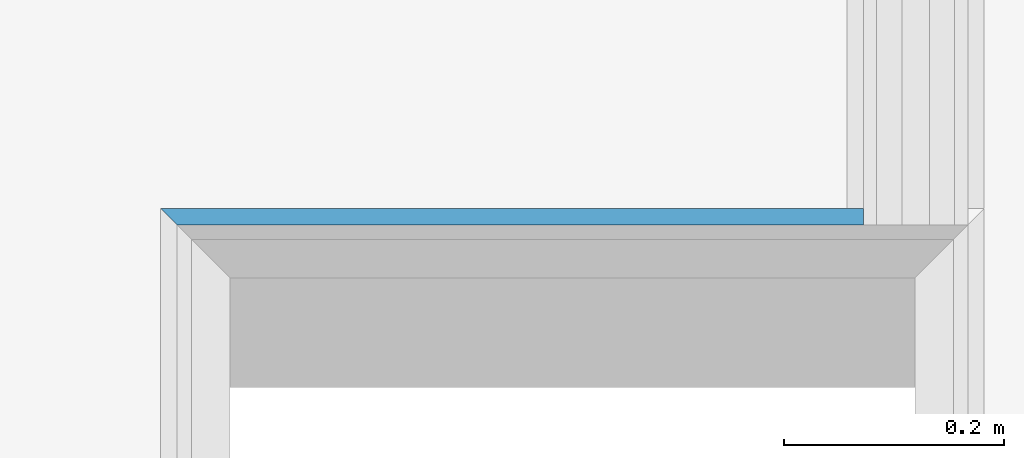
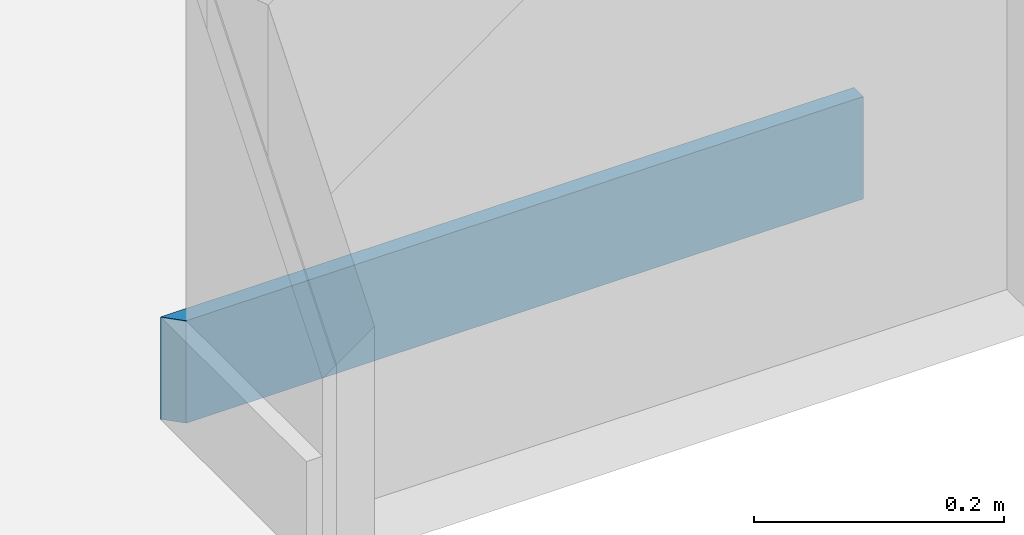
# One storey, part 7 of 65: 1 wall.
"""IFC2X3 building model written with IfcOpenShell, lengths in metres."""

import ifcopenshell
import ifcopenshell.guid

model = None  # the IFC model being written
_history = None  # IfcOwnerHistory: only IFC2X3 demands one
_inside = {}  # id of a spatial element -> (the spatial element, [elements in it])
_under = {}  # id of a project, library or spatial element -> (it, [spatial elements below it])
_declared = {}  # id of a project -> (the project, [libraries it declares])
_typed = {}  # id of a type object -> (the type object, [elements of that type])
_made_of = {}  # id of a material, layer set ... -> (it, [elements and type objects made of it])


def new_model(schema):
    """Start an empty IFC model of exactly this schema.

    Asked for "IFC4X3", IfcOpenShell would pick the latest addendum, in which some entities
    have other attributes; the version numbers below select the first issue.
    IFC2X3 requires an IfcOwnerHistory on every rooted entity: one is made here for all.
    """
    global model, _history
    if schema == "IFC4X3":
        model = ifcopenshell.file(schema_version=(4, 3, 0, 0))
    else:
        model = ifcopenshell.file(schema=schema)
    _inside.clear()
    _under.clear()
    _declared.clear()
    _typed.clear()
    _made_of.clear()
    _history = None
    if model.schema == "IFC2X3":
        org = make("IfcOrganization", Name="unknown")
        user = make(
            "IfcPersonAndOrganization",
            ThePerson=make("IfcPerson", FamilyName="unknown"),
            TheOrganization=org,
        )
        app = make(
            "IfcApplication",
            ApplicationDeveloper=org,
            Version="unknown",
            ApplicationFullName="unknown",
            ApplicationIdentifier="unknown",
        )
        _history = make(
            "IfcOwnerHistory",
            OwningUser=user,
            OwningApplication=app,
            ChangeAction="ADDED",
            CreationDate=0,
        )
    return model


def make(cls, **values):
    """One entity of the class cls with the attributes given. An attribute that is None is left unset."""
    return model.create_entity(
        cls, **{name: value for name, value in values.items() if value is not None}
    )


def entity(cls, *values):
    """Any entity or typed value of the class cls, its attributes in the order of the schema. None: left unset."""
    e = model.create_entity(cls)
    for i, value in enumerate(values):
        if value is not None:
            e[i] = value
    return e


def rooted(cls, **values):
    """An entity with a GlobalId (a new one), such as an element, a storey or a relation."""
    return make(cls, GlobalId=ifcopenshell.guid.new(), OwnerHistory=_history, **values)


def si_unit(unit_type, name, prefix=None):
    """IfcSIUnit, for example si_unit("LENGTHUNIT", "METRE", prefix="MILLI")."""
    return make("IfcSIUnit", UnitType=unit_type, Prefix=prefix, Name=name)


def converted_unit(unit_type, name, factor, base, dimensions=None, offset=None):
    """IfcConversionBasedUnit, such as the inch: factor (a typed value) times the base unit."""
    return make(
        "IfcConversionBasedUnit"
        if offset is None
        else "IfcConversionBasedUnitWithOffset",
        ConversionOffset=offset,
        Dimensions=None
        if dimensions is None
        else entity("IfcDimensionalExponents", *dimensions),
        UnitType=unit_type,
        Name=name,
        ConversionFactor=make(
            "IfcMeasureWithUnit", ValueComponent=factor, UnitComponent=base
        ),
    )


def derived_unit(unit_type, elements):
    """IfcDerivedUnit: a product of units, each with its exponent."""
    return make(
        "IfcDerivedUnit",
        Elements=[
            make("IfcDerivedUnitElement", Unit=unit, Exponent=power)
            for unit, power in elements
        ],
        UnitType=unit_type,
    )


def money_unit(currency):
    """IfcMonetaryUnit."""
    return make("IfcMonetaryUnit", Currency=currency)


def assignment(units):
    """IfcUnitAssignment: the units of a project."""
    return None if units is None else make("IfcUnitAssignment", Units=units)


def point(xyz):
    """IfcCartesianPoint."""
    return None if xyz is None else make("IfcCartesianPoint", Coordinates=xyz)


def direction(xyz):
    """IfcDirection."""
    return None if xyz is None else make("IfcDirection", DirectionRatios=xyz)


def frame(location, z_axis=None, x_axis=None):
    """IfcAxis2Placement3D, a coordinate frame: its origin and axes. An axis left out is left unset."""
    return make(
        "IfcAxis2Placement3D",
        Location=point(location),
        Axis=direction(z_axis),
        RefDirection=direction(x_axis),
    )


def origin_with_axes():
    """The frame at (0, 0, 0) with the z axis (0, 0, 1) and the x axis (1, 0, 0) written out."""
    return frame((0.0, 0.0, 0.0), z_axis=(0.0, 0.0, 1.0), x_axis=(1.0, 0.0, 0.0))


def place(relative_to, where):
    """IfcLocalPlacement: puts the frame where relative to a parent placement (None: the world)."""
    return make(
        "IfcLocalPlacement", PlacementRelTo=relative_to, RelativePlacement=where
    )


def context(
    kind, dimensions, precision=None, world=None, true_north=None, identifier=None
):
    """IfcGeometricRepresentationContext, for example the 3D "Model" context."""
    return make(
        "IfcGeometricRepresentationContext",
        ContextIdentifier=identifier,
        ContextType=kind,
        CoordinateSpaceDimension=dimensions,
        Precision=precision,
        WorldCoordinateSystem=world,
        TrueNorth=true_north,
    )


def subcontext(parent, identifier, kind, view, scale=None):
    """IfcGeometricRepresentationSubContext, for example "Body" below "Model"."""
    return make(
        "IfcGeometricRepresentationSubContext",
        ContextIdentifier=identifier,
        ContextType=kind,
        ParentContext=parent,
        TargetScale=scale,
        TargetView=view,
    )


def project(units=None, contexts=None):
    """IfcProject with its units and contexts."""
    return rooted(
        "IfcProject",
        Name="project",
        RepresentationContexts=contexts,
        UnitsInContext=assignment(units),
    )


def spatial(cls, under=None, at=None, **own):
    """A site, building, storey or space (cls), placed at a placement, below another one or the project."""
    s = rooted(cls, ObjectPlacement=at, **own)
    if under is not None:
        _under.setdefault(under.id(), (under, []))[1].append(s)
    return s


def polyline(points):
    """IfcPolyline through the points."""
    return make("IfcPolyline", Points=[point(p) for p in points])


def outline(outer, holes=None, kind="AREA"):
    """IfcArbitraryClosedProfileDef: a profile drawn as a closed curve; with holes, ...WithVoids."""
    if holes is None:
        return make("IfcArbitraryClosedProfileDef", ProfileType=kind, OuterCurve=outer)
    return make(
        "IfcArbitraryProfileDefWithVoids",
        ProfileType=kind,
        OuterCurve=outer,
        InnerCurves=holes,
    )


def extrude(swept, where, along, depth):
    """IfcExtrudedAreaSolid: the profile swept, set in the frame where, extruded along a direction by depth."""
    return make(
        "IfcExtrudedAreaSolid",
        SweptArea=swept,
        Position=where,
        ExtrudedDirection=direction(along),
        Depth=depth,
    )


def shape(context_of_items, identifier, shape_type, items):
    """IfcShapeRepresentation: the items that make up one representation, for example the "Body"."""
    return make(
        "IfcShapeRepresentation",
        ContextOfItems=context_of_items,
        RepresentationIdentifier=identifier,
        RepresentationType=shape_type,
        Items=items,
    )


def material(Name=None, Category=None):
    """IfcMaterial."""
    return make("IfcMaterial", Name=Name, Category=Category)


def layer(
    of_material, thickness, ventilated=None, Name=None, Category=None, Priority=None
):
    """IfcMaterialLayer: one layer of a wall or slab, of a material (None: an air gap)."""
    return make(
        "IfcMaterialLayer",
        Material=of_material,
        LayerThickness=thickness,
        IsVentilated=ventilated,
        Name=Name,
        Category=Category,
        Priority=Priority,
    )


def layer_set(layers, Name=None):
    """IfcMaterialLayerSet."""
    return make("IfcMaterialLayerSet", MaterialLayers=layers, LayerSetName=Name)


def layer_usage(for_layer_set, set_direction, sense, offset, extent=None):
    """IfcMaterialLayerSetUsage: how a layer set lies in its element."""
    return make(
        "IfcMaterialLayerSetUsage",
        ForLayerSet=for_layer_set,
        LayerSetDirection=set_direction,
        DirectionSense=sense,
        OffsetFromReferenceLine=offset,
        ReferenceExtent=extent,
    )


def made_of(thing, what):
    """Note that an element or type object is made of a material, layer set ...; save() writes the relation."""
    if what is not None:
        _made_of.setdefault(what.id(), (what, []))[1].append(thing)
    return thing


def type_object(cls, material=None, **own):
    """A type object (cls), such as IfcWallType, which elements share."""
    return made_of(rooted(cls, **own), material)


def element(
    cls,
    number,
    at=None,
    inside=None,
    cuts=None,
    type_object=None,
    material=None,
    context=None,
    identifier="Body",
    shape_type=None,
    held_by="IfcProductDefinitionShape",
    body=None,
    shapes=None,
    **own,
):
    """One element of the class cls, such as IfcWall. Its Tag is "e" and its number.

    at: its placement. inside: the storey or other place that contains it. cuts: it is an
    opening in that element (IfcRelVoidsElement). A single representation is given by context,
    identifier, shape_type and body (its items); several are given by shapes. held_by: the class
    of the entity that holds the representations. save() writes the other relations.
    """
    e = rooted(cls, Tag="e%d" % number, ObjectPlacement=at, **own)
    if body is not None:
        shapes = [shape(context, identifier, shape_type, body)]
    if shapes is not None:
        e.Representation = make(held_by, Representations=shapes)
    if inside is not None:
        _inside.setdefault(inside.id(), (inside, []))[1].append(e)
    if cuts is not None:
        rooted(
            "IfcRelVoidsElement", RelatingBuildingElement=cuts, RelatedOpeningElement=e
        )
    if type_object is not None:
        _typed.setdefault(type_object.id(), (type_object, []))[1].append(e)
    return made_of(e, material)


def aggregate(whole, parts):
    """IfcRelAggregates: a whole, such as a stair, and the parts it consists of."""
    return rooted("IfcRelAggregates", RelatingObject=whole, RelatedObjects=parts)


def save(model, path):
    """Write the relations noted so far, then the file.

    IfcRelAggregates (storeys below a building ...), IfcRelContainedInSpatialStructure (elements
    in a storey), IfcRelDefinesByType, IfcRelAssociatesMaterial and IfcRelDeclares: one each for
    every whole, place, type object, material and project.
    """
    for whole, parts in _under.values():
        aggregate(whole, parts)
    for where, things in _inside.values():
        rooted(
            "IfcRelContainedInSpatialStructure",
            RelatedElements=things,
            RelatingStructure=where,
        )
    for kind, things in _typed.values():
        rooted("IfcRelDefinesByType", RelatedObjects=things, RelatingType=kind)
    for what, things in _made_of.values():
        rooted("IfcRelAssociatesMaterial", RelatedObjects=things, RelatingMaterial=what)
    for by, libraries in _declared.values():
        rooted("IfcRelDeclares", RelatingContext=by, RelatedDefinitions=libraries)
    model.write(path)


model = new_model("IFC2X3")

# Units and contexts
model_context = context("Model", 3, precision=1e-05, world=origin_with_axes(), true_north=direction((0.0, 1.0)))
body_context = subcontext(model_context, "Body", "Model", "MODEL_VIEW", scale=1.0)
ifc_project = project(units=[si_unit("LENGTHUNIT", "METRE"), si_unit("AREAUNIT", "SQUARE_METRE"), si_unit("VOLUMEUNIT", "CUBIC_METRE"), si_unit("ABSORBEDDOSEUNIT", "GRAY"), si_unit("AMOUNTOFSUBSTANCEUNIT", "MOLE"), si_unit("DOSEEQUIVALENTUNIT", "SIEVERT"), si_unit("ELECTRICCAPACITANCEUNIT", "FARAD"), si_unit("ELECTRICCHARGEUNIT", "COULOMB"), si_unit("ELECTRICCONDUCTANCEUNIT", "SIEMENS"), si_unit("ELECTRICCURRENTUNIT", "AMPERE"), si_unit("ELECTRICRESISTANCEUNIT", "OHM"), si_unit("ELECTRICVOLTAGEUNIT", "VOLT"), si_unit("ENERGYUNIT", "JOULE"), si_unit("FORCEUNIT", "NEWTON"), si_unit("FREQUENCYUNIT", "HERTZ"), si_unit("ILLUMINANCEUNIT", "LUX"), si_unit("INDUCTANCEUNIT", "HENRY"), si_unit("LUMINOUSFLUXUNIT", "LUMEN"), si_unit("LUMINOUSINTENSITYUNIT", "CANDELA"), si_unit("MAGNETICFLUXDENSITYUNIT", "TESLA"), si_unit("MAGNETICFLUXUNIT", "WEBER"), si_unit("MASSUNIT", "GRAM"), converted_unit("PLANEANGLEUNIT", "degree", entity("IfcReal", 0.0174532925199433), si_unit("PLANEANGLEUNIT", "RADIAN"), dimensions=[0, 0, 0, 0, 0, 0, 0]), si_unit("POWERUNIT", "WATT"), si_unit("PRESSUREUNIT", "PASCAL"), si_unit("RADIOACTIVITYUNIT", "BECQUEREL"), si_unit("SOLIDANGLEUNIT", "STERADIAN"), si_unit("THERMODYNAMICTEMPERATUREUNIT", "KELVIN"), si_unit("TIMEUNIT", "SECOND"), derived_unit("ACCELERATIONUNIT", [(si_unit("LENGTHUNIT", "METRE"), 1), (si_unit("TIMEUNIT", "SECOND"), -2)]), derived_unit("ANGULARVELOCITYUNIT", [(converted_unit("PLANEANGLEUNIT", "degree", entity("IfcReal", 0.0174532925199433), si_unit("PLANEANGLEUNIT", "RADIAN"), dimensions=[0, 0, 0, 0, 0, 0, 0]), 1), (si_unit("TIMEUNIT", "SECOND"), -1)]), derived_unit("CURVATUREUNIT", [(converted_unit("PLANEANGLEUNIT", "degree", entity("IfcReal", 0.0174532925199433), si_unit("PLANEANGLEUNIT", "RADIAN"), dimensions=[0, 0, 0, 0, 0, 0, 0]), 1), (si_unit("LENGTHUNIT", "METRE"), -1)]), derived_unit("DYNAMICVISCOSITYUNIT", [(si_unit("PRESSUREUNIT", "PASCAL"), 1), (si_unit("TIMEUNIT", "SECOND"), 1)]), derived_unit("HEATFLUXDENSITYUNIT", [(si_unit("POWERUNIT", "WATT"), 1), (si_unit("LENGTHUNIT", "METRE"), -2)]), derived_unit("HEATINGVALUEUNIT", [(si_unit("ENERGYUNIT", "JOULE"), 1), (si_unit("MASSUNIT", "GRAM"), -1)]), derived_unit("INTEGERCOUNTRATEUNIT", [(si_unit("TIMEUNIT", "SECOND"), -1)]), derived_unit("IONCONCENTRATIONUNIT", [(si_unit("MASSUNIT", "GRAM"), 1), (si_unit("VOLUMEUNIT", "CUBIC_METRE"), -1)]), derived_unit("ISOTHERMALMOISTURECAPACITYUNIT", [(si_unit("VOLUMEUNIT", "CUBIC_METRE"), 1), (si_unit("MASSUNIT", "GRAM"), -1)]), derived_unit("KINEMATICVISCOSITYUNIT", [(si_unit("AREAUNIT", "SQUARE_METRE"), 1), (si_unit("TIMEUNIT", "SECOND"), -1)]), derived_unit("LINEARFORCEUNIT", [(si_unit("FORCEUNIT", "NEWTON"), 1), (si_unit("LENGTHUNIT", "METRE"), -1)]), derived_unit("LINEARMOMENTUNIT", [(si_unit("FORCEUNIT", "NEWTON"), 1), (si_unit("LENGTHUNIT", "METRE"), -1)]), derived_unit("LINEARSTIFFNESSUNIT", [(si_unit("FORCEUNIT", "NEWTON"), 1), (si_unit("LENGTHUNIT", "METRE"), -1)]), derived_unit("LINEARVELOCITYUNIT", [(si_unit("LENGTHUNIT", "METRE"), 1), (si_unit("TIMEUNIT", "SECOND"), -1)]), derived_unit("LUMINOUSINTENSITYDISTRIBUTIONUNIT", [(si_unit("LUMINOUSINTENSITYUNIT", "CANDELA"), 1), (si_unit("LUMINOUSFLUXUNIT", "LUMEN"), -1)]), derived_unit("MASSDENSITYUNIT", [(si_unit("MASSUNIT", "GRAM"), 1), (si_unit("VOLUMEUNIT", "CUBIC_METRE"), -1)]), derived_unit("MASSFLOWRATEUNIT", [(si_unit("MASSUNIT", "GRAM"), 1), (si_unit("TIMEUNIT", "SECOND"), -1)]), derived_unit("MASSPERLENGTHUNIT", [(si_unit("MASSUNIT", "GRAM"), 1), (si_unit("LENGTHUNIT", "METRE"), -1)]), derived_unit("MODULUSOFELASTICITYUNIT", [(si_unit("FORCEUNIT", "NEWTON"), 1), (si_unit("AREAUNIT", "SQUARE_METRE"), -1)]), derived_unit("MODULUSOFLINEARSUBGRADEREACTIONUNIT", [(si_unit("FORCEUNIT", "NEWTON"), 1), (si_unit("LENGTHUNIT", "METRE"), -2)]), derived_unit("MODULUSOFROTATIONALSUBGRADEREACTIONUNIT", [(si_unit("FORCEUNIT", "NEWTON"), 1), (si_unit("LENGTHUNIT", "METRE"), 1)]), derived_unit("MODULUSOFSUBGRADEREACTIONUNIT", [(si_unit("FORCEUNIT", "NEWTON"), 1), (si_unit("VOLUMEUNIT", "CUBIC_METRE"), -1)]), derived_unit("MOISTUREDIFFUSIVITYUNIT", [(si_unit("VOLUMEUNIT", "CUBIC_METRE"), 1), (si_unit("TIMEUNIT", "SECOND"), -1)]), derived_unit("MOLECULARWEIGHTUNIT", [(si_unit("MASSUNIT", "GRAM"), 1), (si_unit("AMOUNTOFSUBSTANCEUNIT", "MOLE"), -1)]), derived_unit("PLANARFORCEUNIT", [(si_unit("FORCEUNIT", "NEWTON"), 1), (si_unit("LENGTHUNIT", "METRE"), -2)]), derived_unit("ROTATIONALFREQUENCYUNIT", [(si_unit("TIMEUNIT", "SECOND"), -1)]), derived_unit("ROTATIONALMASSUNIT", [(si_unit("MASSUNIT", "GRAM"), 1), (si_unit("LENGTHUNIT", "METRE"), 2)]), derived_unit("ROTATIONALSTIFFNESSUNIT", [(si_unit("FORCEUNIT", "NEWTON"), 1), (si_unit("LENGTHUNIT", "METRE"), 1), (converted_unit("PLANEANGLEUNIT", "degree", entity("IfcReal", 0.0174532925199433), si_unit("PLANEANGLEUNIT", "RADIAN"), dimensions=[0, 0, 0, 0, 0, 0, 0]), -1)]), derived_unit("SECTIONAREAINTEGRALUNIT", [(si_unit("LENGTHUNIT", "METRE"), 5)]), derived_unit("SECTIONMODULUSUNIT", [(si_unit("LENGTHUNIT", "METRE"), 3)]), derived_unit("SHEARMODULUSUNIT", [(si_unit("FORCEUNIT", "NEWTON"), 1), (si_unit("AREAUNIT", "SQUARE_METRE"), -1)]), derived_unit("SOUNDPOWERUNIT", [(si_unit("ENERGYUNIT", "JOULE"), 1), (si_unit("TIMEUNIT", "SECOND"), -1)]), derived_unit("SPECIFICHEATCAPACITYUNIT", [(si_unit("FORCEUNIT", "NEWTON"), 1), (si_unit("MASSUNIT", "GRAM"), -1), (si_unit("THERMODYNAMICTEMPERATUREUNIT", "KELVIN"), -1)]), derived_unit("TEMPERATUREGRADIENTUNIT", [(si_unit("THERMODYNAMICTEMPERATUREUNIT", "KELVIN"), 1), (si_unit("LENGTHUNIT", "METRE"), -1)]), derived_unit("THERMALADMITTANCEUNIT", [(si_unit("POWERUNIT", "WATT"), 1), (si_unit("AREAUNIT", "SQUARE_METRE"), -1), (si_unit("THERMODYNAMICTEMPERATUREUNIT", "KELVIN"), -1)]), derived_unit("THERMALCONDUCTANCEUNIT", [(si_unit("POWERUNIT", "WATT"), 1), (si_unit("LENGTHUNIT", "METRE"), -1), (si_unit("THERMODYNAMICTEMPERATUREUNIT", "KELVIN"), -1)]), derived_unit("THERMALEXPANSIONCOEFFICIENTUNIT", [(si_unit("THERMODYNAMICTEMPERATUREUNIT", "KELVIN"), -1)]), derived_unit("THERMALRESISTANCEUNIT", [(si_unit("AREAUNIT", "SQUARE_METRE"), 1), (si_unit("POWERUNIT", "WATT"), -1)]), derived_unit("THERMALTRANSMITTANCEUNIT", [(si_unit("POWERUNIT", "WATT"), 1), (si_unit("AREAUNIT", "SQUARE_METRE"), -1), (si_unit("THERMODYNAMICTEMPERATUREUNIT", "KELVIN"), -1)]), derived_unit("TORQUEUNIT", [(si_unit("FORCEUNIT", "NEWTON"), 1), (si_unit("LENGTHUNIT", "METRE"), 1)]), derived_unit("VAPORPERMEABILITYUNIT", [(si_unit("MASSUNIT", "GRAM"), 1), (si_unit("TIMEUNIT", "SECOND"), -1)]), derived_unit("VOLUMETRICFLOWRATEUNIT", [(si_unit("VOLUMEUNIT", "CUBIC_METRE"), 1), (si_unit("TIMEUNIT", "SECOND"), -1)]), derived_unit("WARPINGCONSTANTUNIT", [(si_unit("LENGTHUNIT", "METRE"), 6)]), derived_unit("WARPINGMOMENTUNIT", [(si_unit("FORCEUNIT", "NEWTON"), 1), (si_unit("LENGTHUNIT", "METRE"), 2)]), money_unit("GBP")], contexts=[model_context])

# Site, building, storey
site_placement = place(None, origin_with_axes())
site = spatial("IfcSite", under=ifc_project, at=site_placement, Name="Site", CompositionType="ELEMENT")
building_placement = place(site_placement, origin_with_axes())
building = spatial("IfcBuilding", under=site, at=building_placement, Name="Building01", CompositionType="ELEMENT")
storey_placement = place(building_placement, frame((0.0, 0.0, 8.64), z_axis=(0.0, 0.0, 1.0), x_axis=(1.0, 0.0, 0.0)))
storey = spatial("IfcBuildingStorey", under=building, at=storey_placement, Name="2F", CompositionType="ELEMENT", Elevation=8.64)

# Wall
ifc_material = material(Name="A_BSUK_Walls_Timber")
ifc_layer = layer(ifc_material, 0.015, ventilated=False)
ifc_layer_set = layer_set([ifc_layer])
ifc_layer_usage = layer_usage(ifc_layer_set, "AXIS2", "POSITIVE", 0.0)
wall_type = type_object("IfcWallType", Name="default", PredefinedType="NOTDEFINED")
wall_placement = place(storey_placement, frame((6.575, 0.318, 0.015), z_axis=(0.0, 0.0, 1.0), x_axis=(1.0, 0.0, 0.0)))
element("IfcWallStandardCase", 1, at=wall_placement, inside=storey, type_object=wall_type, material=ifc_layer_usage, Name="default", ObjectType="default", context=body_context, shape_type="SweptSolid", body=[
    extrude(outline(polyline([(0.625, 0.015), (-0.015, 0.015), (0.0, 0.0), (0.625, 0.0), (0.625, 0.015)])), origin_with_axes(), (0.0, 0.0, 1.0), 0.1),
])

save(model, "model.ifc")
